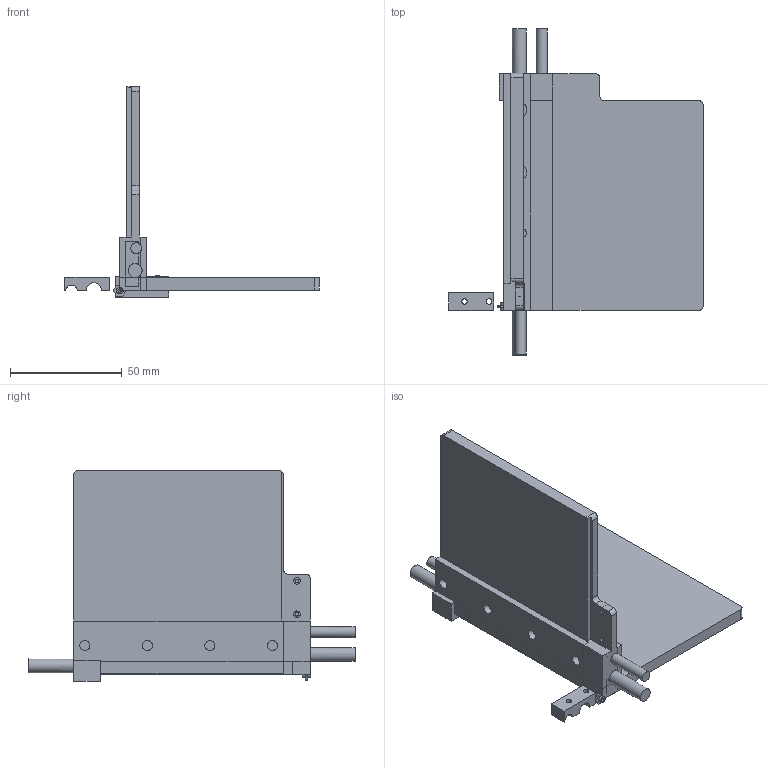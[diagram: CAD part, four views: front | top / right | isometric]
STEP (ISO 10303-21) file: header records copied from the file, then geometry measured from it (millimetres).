
FILE_DESCRIPTION( ( 'Unknown' ), '1' );
FILE_NAME( 'ML1503_01.stp', 'Unknown', ( 'Unknown' ), ( 'Unknown' ), 'XStep 1.0', 'Unknown', ' ' );
FILE_SCHEMA( ( 'CONFIG_CONTROL_DESIGN' ) );
Length unit declared in the file: millimetre
Products named in the file (6): Assem1; 4022 363 05123; GietharsUL3_versie2; 4022 363 35002; 4022 363 40102
Bounding box: 113.86 x 146 x 94.3 mm (x, y, z)
Volume: 133950.3 mm3; surface area: 68060.7 mm2
Topology: 10 solids, 10 shells, 218 faces, 566 edges, 380 vertices
Faces by surface type: plane 146, cylinder 68, cone 4
Full cylindrical faces by diameter (mm): 1.6 x4, 2.5 x4, 3 x12, 3.2 x4, 4.5 x16, 4.8 x2, 6.2 x2
Entity records: 3446 total; most frequent: DIRECTION 550, CARTESIAN_POINT 540, ORIENTED_EDGE 494, EDGE_CURVE 247, AXIS2_PLACEMENT_3D 188, VERTEX_POINT 178, LINE 174, VECTOR 174
